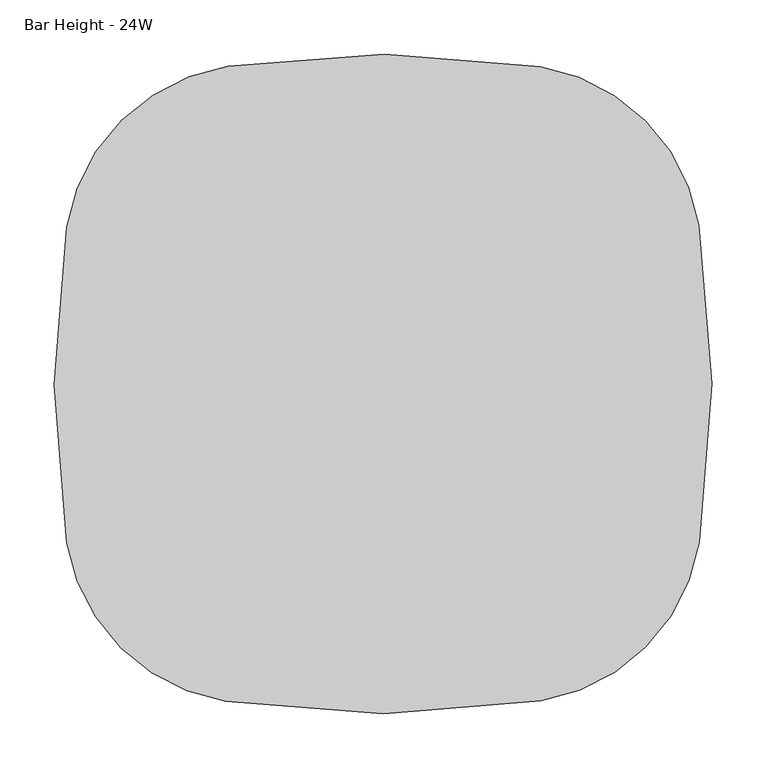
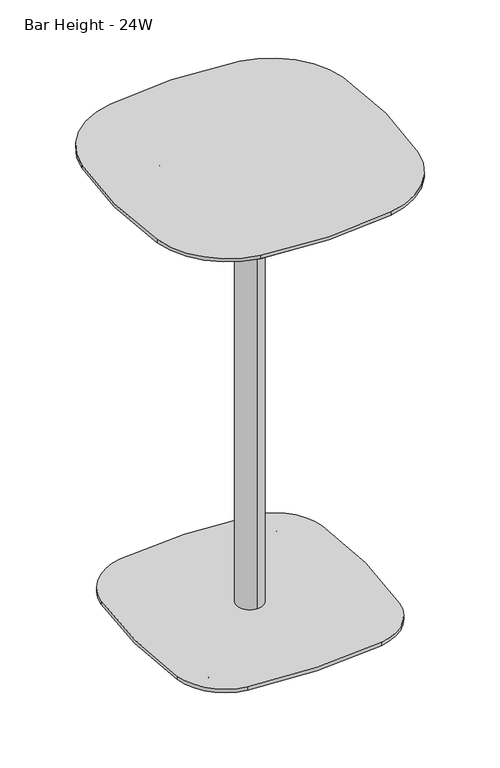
"""IFC4 building model written with IfcOpenShell, lengths in millimetres: furniture geometry, Steelcase Coalesse - Enea Lottus - Table - Cafe : Bar Height - 24W."""

from ifc_helpers import new_model, si_unit, point, frame, frame_2d, origin, origin_with_axes, place, context, project, spatial, polyline, circle_curve, trimmed, segment, composite_curve, outline, extrude, source, transform, mapped, element, save
from ifc_brep_helpers import plane_surface, cylinder_surface, revolved_surface, advanced_brep


def bar_height_24w_ab3b2975(model_context):
    return source(origin(), model_context, "Body", "SolidModel", [
        extrude(outline(composite_curve([segment(trimmed(circle_curve(frame_2d((124.5777941, -124.4143905)), 14.5931535), [point((139.1709476, -124.4143905))], [point((109.9846407, -124.4143905))], False, "CARTESIAN"), True, "CONTINUOUS"), segment(trimmed(circle_curve(frame_2d((124.5777941, -124.4143905)), 14.5931535), [point((109.9846407, -124.4143905))], [point((139.1709476, -124.4143905))], False, "CARTESIAN"), True, "CONTINUOUS")], self_intersect=False)), origin_with_axes(), (0.0, 0.0, 1.0), 12.0681503),
        extrude(outline(composite_curve([segment(trimmed(circle_curve(frame_2d((485.0222059, -124.4143905)), 14.5931535), [point((499.6153593, -124.4143905))], [point((470.4290524, -124.4143905))], False, "CARTESIAN"), True, "CONTINUOUS"), segment(trimmed(circle_curve(frame_2d((485.0222059, -124.4143905)), 14.5931535), [point((470.4290524, -124.4143905))], [point((499.6153593, -124.4143905))], False, "CARTESIAN"), True, "CONTINUOUS")], self_intersect=False)), origin_with_axes(), (0.0, 0.0, 1.0), 12.0681503),
        extrude(outline(composite_curve([segment(trimmed(circle_curve(frame_2d((124.5777941, -485.1856095)), 14.5931535), [point((139.1709476, -485.1856095))], [point((109.9846407, -485.1856095))], False, "CARTESIAN"), True, "CONTINUOUS"), segment(trimmed(circle_curve(frame_2d((124.5777941, -485.1856095)), 14.5931535), [point((109.9846407, -485.1856095))], [point((139.1709476, -485.1856095))], False, "CARTESIAN"), True, "CONTINUOUS")], self_intersect=False)), origin_with_axes(), (0.0, 0.0, 1.0), 12.0681503),
        extrude(outline(composite_curve([segment(trimmed(circle_curve(frame_2d((485.0222059, -485.1856095)), 14.5931535), [point((499.6153593, -485.1856095))], [point((470.4290524, -485.1856095))], False, "CARTESIAN"), True, "CONTINUOUS"), segment(trimmed(circle_curve(frame_2d((485.0222059, -485.1856095)), 14.5931535), [point((470.4290524, -485.1856095))], [point((499.6153593, -485.1856095))], False, "CARTESIAN"), True, "CONTINUOUS")], self_intersect=False)), origin_with_axes(), (0.0, 0.0, 1.0), 12.0681503),
        extrude(outline(composite_curve([segment(trimmed(circle_curve(frame_2d((439.7325388, -169.9682383)), 114.3), [point((455.7555748, -56.7968978))], [point((552.9038793, -153.9452024))], False, "CARTESIAN"), True, "CONTINUOUS"), segment(trimmed(circle_curve(frame_2d((-512.58956, -304.8)), 1076.1196212), [point((552.9038793, -153.9452024))], [point((552.9038793, -455.6547976))], False, "CARTESIAN"), True, "CONTINUOUS"), segment(trimmed(circle_curve(frame_2d((439.7325388, -439.6317617)), 114.3), [point((552.9038793, -455.6547976))], [point((455.7555748, -552.8031022))], False, "CARTESIAN"), True, "CONTINUOUS"), segment(trimmed(circle_curve(frame_2d((304.9007771, 512.6903371)), 1076.1196212), [point((455.7555748, -552.8031022))], [point((156.2349074, -553.1107224))], False, "CARTESIAN"), True, "CONTINUOUS"), segment(trimmed(circle_curve(frame_2d((172.3871485, -437.3136286)), 116.9181843), [point((156.2349074, -553.1107224))], [point((56.5900548, -453.4658697))], False, "CARTESIAN"), True, "CONTINUOUS"), segment(trimmed(circle_curve(frame_2d((1122.3911142, -304.8)), 1076.1196212), [point((56.5900548, -453.4658697))], [point((56.1557192, -159.2818861))], False, "CARTESIAN"), True, "CONTINUOUS"), segment(trimmed(circle_curve(frame_2d((175.6975413, -175.5967642)), 120.65), [point((56.1557192, -159.2818861))], [point((159.3826632, -56.054942))], False, "CARTESIAN"), True, "CONTINUOUS"), segment(trimmed(circle_curve(frame_2d((304.9007771, -1122.2903371)), 1076.1196212), [point((159.3826632, -56.054942))], [point((455.7555748, -56.7968978))], False, "CARTESIAN"), True, "CONTINUOUS")], self_intersect=False)), frame((0.0, 0.0, 12.0681503), z_axis=(0.0, 0.0, 1.0), x_axis=(1.0, 0.0, 0.0)), (0.0, 0.0, 1.0), 7.874),
        advanced_brep(
        [(304.8, -334.6613798, 1030.4223999), (304.8, -274.9386202, 1030.4223999), (304.8, -128.3080839, 1051.1439789), (304.8, -481.2919161, 1051.1439789), (304.8, -304.8, 1030.4223999), (304.8, -481.2919161, 1054.0282142), (304.8, -128.3080839, 1054.0282142), (304.8, -304.8, 1054.0282142)],
        [
            (0, 1, circle_curve(frame((304.8, -304.8, 1030.4223999), z_axis=(0.0, 0.0, 1.0), x_axis=(0.0, 1.0, 0.0)), 29.8613798)),
            (1, 2),
            (2, 3, circle_curve(frame((304.8, -304.8, 1051.1439789), z_axis=(0.0, 0.0, -1.0), x_axis=(0.0, 1.0, 0.0)), 176.4919161)),
            (3, 0),
            (1, 0, circle_curve(frame((304.8, -304.8, 1030.4223999), z_axis=(0.0, 0.0, 1.0), x_axis=(0.0, 1.0, 0.0)), 29.8613798)),
            (3, 2, circle_curve(frame((304.8, -304.8, 1051.1439789), z_axis=(0.0, 0.0, -1.0), x_axis=(0.0, 1.0, 0.0)), 176.4919161)),
            (4, 1),
            (0, 4),
            (5, 6, circle_curve(frame((304.8, -304.8, 1054.0282142), z_axis=(0.0, 0.0, 1.0), x_axis=(0.0, 1.0, 0.0)), 176.4919161)),
            (6, 7),
            (7, 5),
            (6, 5, circle_curve(frame((304.8, -304.8, 1054.0282142), z_axis=(0.0, 0.0, 1.0), x_axis=(0.0, 1.0, 0.0)), 176.4919161)),
            (2, 6),
            (5, 3),
        ],
        [
            revolved_surface(polyline([(304.8, -128.3080839, 1051.1439789), (304.8, -274.9386202, 1030.4223999)]), (304.8, -304.8, 1042.225307), (0.0, 0.0, -1.0)),
            plane_surface(frame((304.8, -304.8, 1030.4223999), z_axis=(0.0, 0.0, -1.0), x_axis=(0.0, 1.0, 0.0))),
            plane_surface(frame((304.8, -304.8, 1054.0282142), z_axis=(0.0, 0.0, 1.0), x_axis=(0.0, 1.0, 0.0))),
            cylinder_surface(frame((304.8, -304.8, 1042.225307), z_axis=(0.0, 0.0, -1.0), x_axis=(0.0, 1.0, 0.0)), 176.4919161),
        ],
        [
            (0, [[1, 2, 3, 4]]),
            (0, [[5, -4, 6, -2]]),
            (1, [[7, -1, 8]]),
            (1, [[-8, -5, -7]]),
            (2, [[9, 10, 11]]),
            (2, [[12, -11, -10]]),
            (3, [[-3, 13, -9, 14]]),
            (3, [[-6, -14, -12, -13]]),
        ],
    ),
        extrude(outline(composite_curve([segment(trimmed(circle_curve(frame_2d((422.2639473, -422.7901965)), 177.8), [point((597.737796, -451.4566999))], [point((451.0251551, -598.2485474))], False, "CARTESIAN"), True, "CONTINUOUS"), segment(trimmed(circle_curve(frame_2d((303.9070693, 299.2484165)), 909.4748658), [point((451.0251551, -598.2485474))], [point((159.0694792, -598.6193933))], False, "CARTESIAN"), True, "CONTINUOUS"), segment(trimmed(circle_curve(frame_2d((187.384856, -423.088543)), 177.8), [point((159.0694792, -598.6193933))], [point((11.9229118, -451.8278218))], False, "CARTESIAN"), True, "CONTINUOUS"), segment(trimmed(circle_curve(frame_2d((906.6999636, -305.270417)), 906.7000856), [point((11.9229118, -451.8278218))], [point((11.7482991, -159.7830861))], False, "CARTESIAN"), True, "CONTINUOUS"), segment(trimmed(circle_curve(frame_2d((189.7726277, -188.7235143)), 180.3613317), [point((11.7482991, -159.7830861))], [point((161.53911, -10.5857068))], False, "CARTESIAN"), True, "CONTINUOUS"), segment(trimmed(circle_curve(frame_2d((303.9070693, -908.8484165)), 909.4748658), [point((161.53911, -10.5857068))], [point((450.8279994, -11.3191569))], False, "CARTESIAN"), True, "CONTINUOUS"), segment(trimmed(circle_curve(frame_2d((422.105335, -186.7838216)), 177.8), [point((450.8279994, -11.3191569))], [point((597.5404936, -157.8814836))], False, "CARTESIAN"), True, "CONTINUOUS"), segment(trimmed(circle_curve(frame_2d((-297.0999636, -305.270417)), 906.7000856), [point((597.5404936, -157.8814836))], [point((597.737796, -451.4566999))], False, "CARTESIAN"), True, "CONTINUOUS")], self_intersect=False)), frame((0.0, 0.0, 1059.247009), z_axis=(0.0, 0.0, 1.0), x_axis=(1.0, 0.0, 0.0)), (0.0, 0.0, 1.0), 7.552991),
        advanced_brep(
        [(448.7763805, -23.8523473, 1054.0282142), (585.0094108, -159.9459363, 1054.0282142), (585.2039497, -449.4090925, 1054.0282142), (448.9707831, -585.7158081, 1054.0282142), (161.0920061, -586.0814755, 1054.0282142), (24.4559078, -449.7750162, 1054.0282142), (24.2837409, -161.8209033, 1054.0282142), (163.5271508, -23.1291391, 1054.0282142), (450.8279994, -11.3191569, 1059.247009), (161.53911, -10.5857068, 1059.247009), (11.7482991, -159.7830861, 1059.247009), (11.9229118, -451.8278218, 1059.247009), (159.0694792, -598.6193933, 1059.247009), (451.0251551, -598.2485474, 1059.247009), (597.737796, -451.4566999, 1059.247009), (597.5404936, -157.8814836, 1059.247009)],
        [
            (0, 1, circle_curve(frame((422.105335, -186.7838216, 1054.0282142), z_axis=(0.0, 0.0, -1.0), x_axis=(0.1615447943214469, 0.9868653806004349, 0.0)), 165.1)),
            (1, 2, circle_curve(frame((-297.0999636, -305.270417, 1054.0282142), z_axis=(0.0, 0.0, -1.0), x_axis=(0.9866994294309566, 0.1625553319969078, 0.0)), 894.0000856)),
            (2, 3, circle_curve(frame((422.2639473, -422.7901965, 1054.0282142), z_axis=(0.0, 0.0, -1.0), x_axis=(0.986917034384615, -0.16122892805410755, 0.0)), 165.1)),
            (3, 4, circle_curve(frame((303.9070693, 299.2484165, 1054.0282142), z_axis=(0.0, 0.0, -1.0), x_axis=(0.1617615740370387, -0.9868298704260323, 0.0)), 896.7748658)),
            (4, 5, circle_curve(frame((187.384856, -423.088543, 1054.0282142), z_axis=(0.0, 0.0, -1.0), x_axis=(-0.15925408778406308, -0.987237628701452, 0.0)), 165.1)),
            (5, 6, circle_curve(frame((906.6999636, -305.270417, 1054.0282142), z_axis=(0.0, 0.0, -1.0), x_axis=(-0.9868500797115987, -0.16163823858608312, 0.0)), 894.0000856)),
            (6, 7, circle_curve(frame((189.7726277, -188.7235143, 1054.0282142), z_axis=(0.0, 0.0, -1.0), x_axis=(-0.9870426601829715, 0.16045805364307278, 0.0)), 167.6613317)),
            (7, 0, circle_curve(frame((303.9070693, -908.8484165, 1054.0282142), z_axis=(0.0, 0.0, -1.0), x_axis=(-0.156538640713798, 0.9876718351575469, 0.0)), 896.7748658)),
            (8, 9, circle_curve(frame((303.9070693, -908.8484165, 1059.247009), z_axis=(0.0, 0.0, 1.0), x_axis=(-0.156538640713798, 0.9876718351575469, 0.0)), 909.4748658)),
            (9, 10, circle_curve(frame((189.7726277, -188.7235143, 1059.247009), z_axis=(0.0, 0.0, 1.0), x_axis=(-0.9870426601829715, 0.16045805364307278, 0.0)), 180.3613317)),
            (10, 11, circle_curve(frame((906.6999636, -305.270417, 1059.247009), z_axis=(0.0, 0.0, 1.0), x_axis=(-0.9868500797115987, -0.16163823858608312, 0.0)), 906.7000856)),
            (11, 12, circle_curve(frame((187.384856, -423.088543, 1059.247009), z_axis=(0.0, 0.0, 1.0), x_axis=(-0.15925408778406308, -0.987237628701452, 0.0)), 177.8)),
            (12, 13, circle_curve(frame((303.9070693, 299.2484165, 1059.247009), z_axis=(0.0, 0.0, 1.0), x_axis=(0.1617615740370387, -0.9868298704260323, 0.0)), 909.4748658)),
            (13, 14, circle_curve(frame((422.2639473, -422.7901965, 1059.247009), z_axis=(0.0, 0.0, 1.0), x_axis=(0.986917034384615, -0.16122892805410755, 0.0)), 177.8)),
            (14, 15, circle_curve(frame((-297.0999636, -305.270417, 1059.247009), z_axis=(0.0, 0.0, 1.0), x_axis=(0.9866994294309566, 0.1625553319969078, 0.0)), 906.7000856)),
            (15, 8, circle_curve(frame((422.105335, -186.7838216, 1059.247009), z_axis=(0.0, 0.0, 1.0), x_axis=(0.1615447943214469, 0.9868653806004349, 0.0)), 177.8)),
            (15, 1),
            (0, 8),
            (14, 2),
            (13, 3),
            (12, 4),
            (11, 5),
            (10, 6),
            (9, 7),
        ],
        [
            plane_surface(frame((305.1649162, -304.9662148, 1054.0282142), z_axis=(0.0, 0.0, -1.0), x_axis=(-0.9868653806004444, 0.1615447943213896, 0.0))),
            plane_surface(frame((305.1764055, -304.965237, 1059.247009), z_axis=(0.0, 0.0, 1.0), x_axis=(-0.9868653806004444, 0.1615447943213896, 0.0))),
            revolved_surface(polyline([(448.7763805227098, -23.852347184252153, 1054.0282142), (450.8279994, -11.319156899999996, 1059.247009)]), (422.105335, -186.7838216, 986.1838815), (0.0, 0.0, 1.0)),
            revolved_surface(polyline([(585.0094108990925, -159.94593630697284, 1054.0282142), (597.5404936, -157.8814836, 1059.247009)]), (-297.0999636, -305.270417, 686.6578978), (0.0, 0.0, 1.0)),
            revolved_surface(polyline([(585.2039497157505, -449.4090925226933, 1054.0282142), (597.737796, -451.4566999, 1059.247009)]), (422.2639473, -422.7901965, 986.1838815), (0.0, 0.0, 1.0)),
            revolved_surface(polyline([(448.9707831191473, -585.7158081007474, 1054.0282142), (451.0251551, -598.2485474, 1059.247009)]), (303.9070693, 299.2484165, 685.5176609), (0.0, 0.0, 1.0)),
            revolved_surface(polyline([(161.09200610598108, -586.08147547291, 1054.0282142), (159.0694792, -598.6193933, 1059.247009)]), (187.384856, -423.088543, 986.1838815), (0.0, 0.0, 1.0)),
            revolved_surface(polyline([(24.455907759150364, -449.7750161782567, 1054.0282142), (11.922911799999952, -451.8278218, 1059.247009)]), (906.6999636, -305.270417, 686.6578978), (0.0, 0.0, 1.0)),
            revolved_surface(polyline([(24.283740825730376, -161.82090336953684, 1054.0282142), (11.748299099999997, -159.7830861, 1059.247009)]), (189.7726277, -188.7235143, 985.1313567), (0.0, 0.0, 1.0)),
            revolved_surface(polyline([(163.52715072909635, -23.129139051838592, 1054.0282142), (161.53911, -10.585706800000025, 1059.247009)]), (303.9070693, -908.8484165, 685.5176609), (0.0, 0.0, 1.0)),
        ],
        [
            (0, [[1, 2, 3, 4, 5, 6, 7, 8]]),
            (1, [[9, 10, 11, 12, 13, 14, 15, 16]]),
            (2, [[-16, 17, -1, 18]]),
            (3, [[-15, 19, -2, -17]]),
            (4, [[-14, 20, -3, -19]]),
            (5, [[-13, 21, -4, -20]]),
            (6, [[-12, 22, -5, -21]]),
            (7, [[-11, 23, -6, -22]]),
            (8, [[-10, 24, -7, -23]]),
            (9, [[-9, -18, -8, -24]]),
        ],
    ),
        extrude(outline(composite_curve([segment(trimmed(circle_curve(frame_2d((304.8, -304.8)), 29.8613798), [point((304.8, -334.6613798))], [point((304.8, -274.9386202))], False, "CARTESIAN"), True, "CONTINUOUS"), segment(trimmed(circle_curve(frame_2d((304.8, -304.8)), 29.8613798), [point((304.8, -274.9386202))], [point((304.8, -334.6613798))], False, "CARTESIAN"), True, "CONTINUOUS")], self_intersect=False)), frame((0.0, 0.0, 19.9421503), z_axis=(0.0, 0.0, 1.0), x_axis=(1.0, 0.0, 0.0)), (0.0, 0.0, 1.0), 1010.4802496),
    ])


if __name__ == "__main__":
    model = new_model("IFC4")
    model_context = context("Model", 3, world=origin())
    ifc_project = project(units=[si_unit("LENGTHUNIT", "METRE", prefix="MILLI")], contexts=[model_context])
    site = spatial("IfcSite", under=ifc_project)
    building = spatial("IfcBuilding", under=site)
    placement = place(None, origin())
    bar_height_24w_shape = bar_height_24w_ab3b2975(model_context)
    element("IfcFurniture", 1, ObjectType="Steelcase Coalesse - Enea Lottus - Table - Cafe : Bar Height - 24W", at=placement, inside=building, context=model_context, shape_type="MappedRepresentation", body=[
        mapped(bar_height_24w_shape, transform((0.0, 0.0, 0.0), x_axis=(1.0, 0.0, 0.0), y_axis=(0.0, 1.0, 0.0), z_axis=(0.0, 0.0, 1.0))),
    ])
    save(model, "model.ifc")
